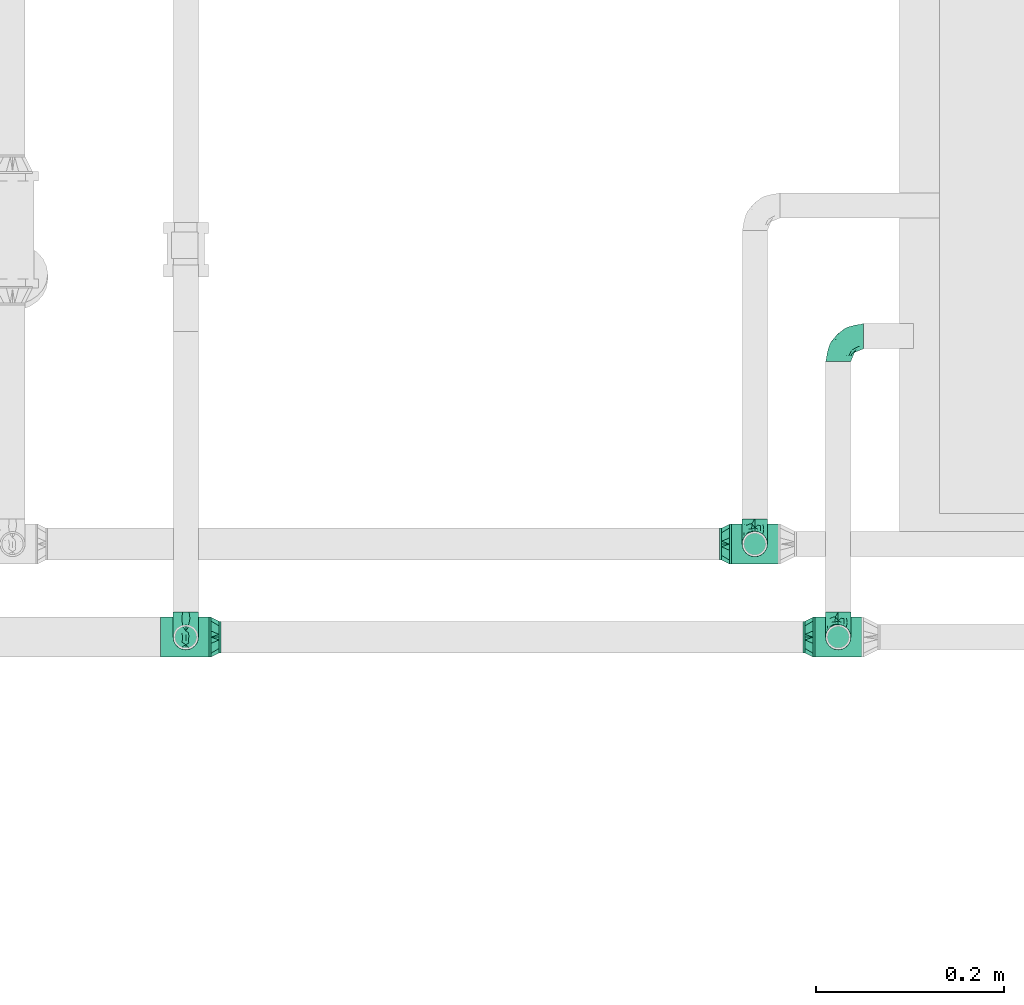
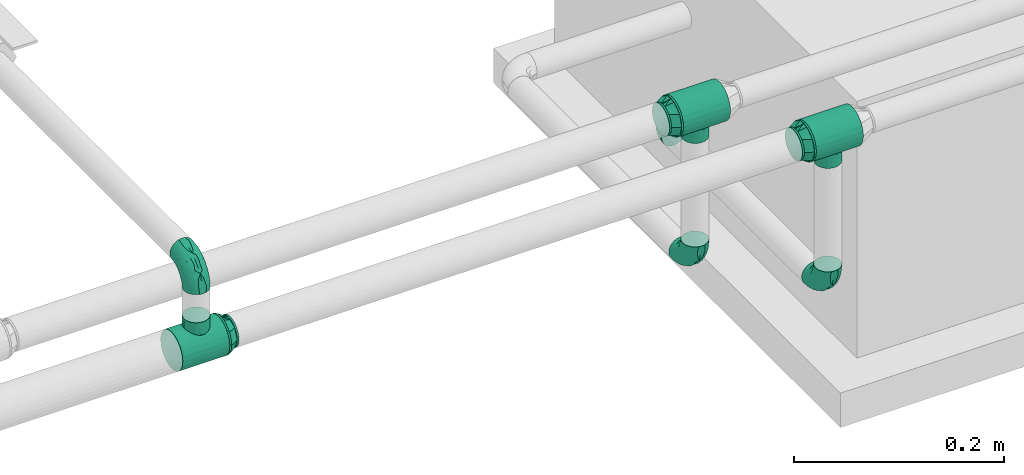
# One storey, part 19 of 35: 10 flow fittings.
"""IFC2X3 building model written with IfcOpenShell, lengths in millimetres."""

from ifc_helpers import new_model, entity, si_unit, converted_unit, derived_unit, direction, frame, origin_with_axes, place, context, subcontext, project, spatial, open_shell, surface_model, source, transform, mapped, type_object, element, save


model = new_model("IFC2X3")

# Units and contexts
model_context = context("Model", 3, precision=0.01, world=frame((0.0, 4.29681676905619e-09, 0.0)), true_north=direction((4.01073788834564e-13, 1.0)))
plan_context = context("Plan", 3, precision=0.01, world=frame((0.0, 4.29681676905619e-09, 0.0)), true_north=direction((4.01073788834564e-13, 1.0)))
body_context = subcontext(model_context, "Body", "Model", "MODEL_VIEW")
ifc_project = project(units=[converted_unit("PLANEANGLEUNIT", "DEGREE", entity("IfcPositiveLengthMeasure", 0.0174532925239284), si_unit("PLANEANGLEUNIT", "RADIAN"), dimensions=[0, 0, 0, 0, 0, 0, 0]), si_unit("AREAUNIT", "SQUARE_METRE"), si_unit("LENGTHUNIT", "METRE", prefix="MILLI"), si_unit("MASSUNIT", "GRAM", prefix="KILO"), si_unit("POWERUNIT", "WATT"), si_unit("PRESSUREUNIT", "PASCAL"), si_unit("FORCEUNIT", "NEWTON", prefix="KILO"), si_unit("ELECTRICVOLTAGEUNIT", "VOLT"), si_unit("ELECTRICCURRENTUNIT", "AMPERE"), si_unit("THERMODYNAMICTEMPERATUREUNIT", "DEGREE_CELSIUS"), si_unit("TIMEUNIT", "SECOND"), si_unit("VOLUMEUNIT", "CUBIC_METRE"), derived_unit("LINEARVELOCITYUNIT", [(si_unit("LENGTHUNIT", "METRE"), 1), (si_unit("TIMEUNIT", "SECOND"), -1)]), derived_unit("VOLUMETRICFLOWRATEUNIT", [(si_unit("VOLUMEUNIT", "CUBIC_METRE"), 1), (si_unit("TIMEUNIT", "SECOND"), -1)]), derived_unit("THERMALTRANSMITTANCEUNIT", [(si_unit("POWERUNIT", "WATT"), 1), (si_unit("THERMODYNAMICTEMPERATUREUNIT", "KELVIN"), -1), (si_unit("AREAUNIT", "SQUARE_METRE"), -1)]), derived_unit("SOUNDPRESSUREUNIT", [(si_unit("PRESSUREUNIT", "PASCAL"), 1)])], contexts=[model_context, plan_context])

# Site, building, storey
site_placement = place(None, frame((0.0, -4.29681676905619e-09, 0.0), z_axis=(0.0, 0.0, 1.0), x_axis=(1.0, 0.0, 0.0)))
site = spatial("IfcSite", under=ifc_project, at=site_placement, Name="ENGM", CompositionType="ELEMENT")
building_placement = place(site_placement, frame((0.0, 4.29681676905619e-09, 0.0), z_axis=(0.0, 0.0, 1.0), x_axis=(1.0, 0.0, 0.0)))
building = spatial("IfcBuilding", under=site, at=building_placement, Name="TH", CompositionType="ELEMENT")
storey_placement = place(building_placement, frame((0.0, 0.0, 210200.0), z_axis=(0.0, 0.0, 1.0), x_axis=(1.0, 0.0, 0.0)))
storey = spatial("IfcBuildingStorey", under=building, at=storey_placement, Name="Nivå F - 0,7 m", CompositionType="ELEMENT", Elevation=210200.0)

# Flow fittings
pipe_fitting_type_1 = type_object("IfcPipeFittingType", Name="magi_pipe_fe_elbow_short_001", PredefinedType="BEND")
shared_shape_1 = source(origin_with_axes(), body_context, "Body", "SurfaceModel", [
    surface_model("IfcShellBasedSurfaceModel", [(-26.8, 0.0, -13.4), (-26.8, -12.94341, -3.46818), (-26.8, 3.46818, -12.94341), (-26.8, 6.7, -11.60474), (-26.8, 9.47523, -9.47523), (-26.8, 11.60474, -6.7), (-26.8, 11.60474, 6.7), (-26.8, -9.47523, -9.47523), (-26.8, -6.7, -11.60474), (-26.8, -3.46818, -12.94341), (-26.8, -11.60474, -6.7), (-26.8, -13.4, 0.0), (-26.8, -12.94341, 3.46818), (-26.8, 12.94341, -3.46818), (-26.8, 12.94341, 3.46818), (-26.8, 3.46818, 12.94341), (-26.8, 6.7, 11.60474), (-26.8, 9.47523, 9.47523), (-26.8, -6.7, 11.60474), (-26.8, -11.60474, 6.7), (-26.8, -9.47523, 9.47523), (-26.8, -3.46818, 12.94341), (-26.8, 0.0, 13.4), (-26.8, 13.4, 0.0), (-3.46818, 26.8, -12.94341), (12.94341, 26.8, -3.46818), (0.0, 26.8, -13.4), (-9.47523, 26.8, -9.47523), (-6.7, 26.8, -11.60474), (-11.60474, 26.8, -6.7), (-11.60474, 26.8, 6.7), (6.7, 26.8, -11.60474), (9.47523, 26.8, -9.47523), (3.46818, 26.8, -12.94341), (11.60474, 26.8, -6.7), (12.94341, 26.8, 3.46818), (13.4, 26.8, 0.0), (-13.4, 26.8, 0.0), (-12.94341, 26.8, -3.46818), (-12.94341, 26.8, 3.46818), (-9.47523, 26.8, 9.47523), (-6.7, 26.8, 11.60474), (-3.46818, 26.8, 12.94341), (6.7, 26.8, 11.60474), (9.47523, 26.8, 9.47523), (11.60474, 26.8, 6.7), (3.46818, 26.8, 12.94341), (0.0, 26.8, 13.4), (-17.94383, -11.72186, 4.19396), (-19.61933, -10.40522, 7.51874), (-14.00394, -9.97131, 0.0), (-10.88146, -9.75217, 2.96415), (5.6402, 4.14256, 4.06277), (2.9355, 3.86758, 7.99817), (-0.16552, -0.70254, 6.90229), (-11.69279, -8.47867, 6.74741), (-3.60975, -5.23517, 4.12915), (-20.40197, -11.68565, 0.0), (6.07727, 10.7767, 9.16668), (7.71917, 17.5318, 9.98024), (3.23022, 10.34855, 11.14395), (-17.5318, -7.71917, 9.98024), (-19.6814, -5.06542, 12.05518), (-20.47091, -1.77513, 13.17083), (-18.76435, 2.05404, 13.37716), (-10.34855, -3.23022, 11.14395), (-13.34095, -0.12025, 12.98799), (-20.6562, 5.25542, 12.65822), (-21.01515, 11.15223, 8.78653), (-19.1981, 14.0055, 6.12639), (-23.45804, 12.58298, 5.55254), (-13.79572, 19.62699, 6.0655), (-4.65712, 13.17755, 13.37596), (-9.92557, 9.92557, 13.07441), (-7.97904, 5.85569, 13.33097), (-14.12498, 14.96497, 9.49183), (-23.18377, 8.11481, 10.91864), (-3.49778, 8.97497, 13.15743), (-6.65819, 2.45826, 12.5129), (-1.36893, 7.23965, 12.31444), (-22.3163, 13.71444, 3.37662), (-20.76788, 15.89859, 0.0), (-5.00198, 23.11411, 12.55149), (-1.83653, 20.04451, 13.36709), (5.06542, 19.6814, 12.05518), (-4.60225, -3.19632, 8.30444), (-2.39362, 2.39362, 10.95564), (1.77513, 20.47091, 13.17083), (10.40522, 19.61933, 7.51874), (8.47867, 11.69279, 6.74741), (11.72186, 17.94383, 4.19396), (-10.7767, -6.07727, 9.16668), (-14.71477, 20.20527, 3.11661), (-18.32912, 15.92283, 3.19527), (9.75217, 10.88146, 2.96415), (9.97131, 14.00394, 0.0), (11.68565, 20.40197, 0.0), (-17.32477, 17.32477, 0.0), (8.01422, 6.7, 0.0), (-11.0099, 17.80242, 10.25412), (-8.46783, 20.75346, 11.10693), (-11.06207, 21.36651, 8.74797), (-10.13559, 14.48567, 11.94159), (-5.79525, 18.15733, 12.76163), (-14.31139, 12.02432, 11.13575), (-6.7, -8.01422, 0.0), (-14.72492, 5.73985, 13.1602), (-13.14892, 3.28357, 13.39428), (-14.24576, 9.09225, 12.39421), (-7.80572, 13.90987, 12.83655), (0.12025, 13.34095, 12.98799), (-18.45241, 9.09615, 11.28418), (-1.02036, 0.84565, 9.15855), (-3.66591, -4.13183, 6.30134), (-3.02144, -4.33567, 0.0), (1.56761, -1.1228, 3.23127), (-15.89859, 20.76788, 0.0), (4.33567, 3.02144, 0.0), (0.65711, -0.65711, 0.0), (-21.21323, 1.69434, -13.35639), (-11.59215, 19.61477, -8.94181), (-19.9553, -12.05444, -4.41231), (-20.61911, 5.26132, -12.65979), (-18.29002, 15.89425, -3.37935), (-10.94714, -3.38176, -11.24231), (-11.6358, -0.16715, -12.74497), (-5.38395, -0.22423, -10.97991), (-19.45447, 8.78609, -11.20697), (-21.18665, 11.10723, -8.76769), (8.05635, 19.80434, -10.14754), (-16.16073, 12.27967, -10.10626), (-10.65974, -9.81032, -2.24682), (-4.63434, -6.26604, -3.21731), (-12.41035, 15.57424, -10.31822), (-9.54276, 16.38525, -11.6371), (-12.38435, 12.38435, -11.76567), (-1.18054, -2.52878, -5.66699), (1.17703, 2.36499, -8.51656), (4.94456, 3.94062, -5.27361), (-13.23013, 7.7548, -12.95755), (-18.92609, -10.30887, -7.4546), (-19.80434, -8.05635, -10.14754), (-5.46999, 19.49566, -12.70683), (12.05444, 19.9553, -4.41231), (-22.63124, -5.28269, -12.19553), (-11.57403, -7.91736, -7.4927), (-10.00514, -5.4662, -9.37392), (0.56412, 6.29454, -11.17498), (0.16715, 11.6358, -12.74497), (2.76952, 11.43973, -11.70622), (-22.71135, 13.83144, -2.294), (-13.13887, 21.26515, -5.84046), (-14.02683, 21.74629, -2.98452), (10.30887, 18.92609, -7.4546), (-4.73052, 4.73052, -12.6532), (-16.28385, 15.93209, -6.57302), (-1.69434, 21.21323, -13.35639), (-8.4106, 21.03687, -11.08508), (1.68957, 19.74249, -13.15499), (5.28269, 22.63124, -12.19553), (-19.74249, -1.68957, -13.15499), (-16.96978, -4.62448, -11.91765), (-3.16773, 14.76219, -13.39711), (-7.24575, 7.81916, -13.39239), (-7.92886, 12.7032, -13.00116), (-6.57993, -6.26304, -6.05124), (9.46363, 9.95483, -2.39006), (6.59847, 4.89531, -2.6225), (0.29079, -2.47661, -2.876), (-21.42347, 13.17132, -5.65321), (9.35918, 11.66841, -5.08525), (8.33374, 12.94014, -7.69724), (5.4662, 10.00514, -9.37392), (4.62448, 16.96978, -11.91765), (-3.89324, -2.60816, -8.35445), (5.97121, 7.49007, -7.29975), (-14.76219, 3.16773, -13.39711), (-15.36238, 22.06238, 0.0), (-11.66841, -9.35918, -5.08525), (3.63632, 1.19488, -3.35093), (-14.94382, 15.17624, -8.6945)], [open_shell([[[0, 1, 2]], [[3, 2, 4]], [[5, 2, 1]], [[4, 2, 5]], [[5, 1, 6]], [[7, 1, 8]], [[0, 9, 8]], [[10, 1, 7]], [[8, 1, 0]], [[11, 12, 1]], [[13, 5, 14]], [[5, 6, 14]], [[1, 15, 6]], [[15, 16, 17]], [[6, 15, 17]], [[1, 18, 15]], [[19, 20, 12]], [[18, 12, 20]], [[18, 21, 15]], [[18, 1, 12]], [[15, 21, 22]], [[14, 23, 13]], [[24, 25, 26]], [[27, 24, 28]], [[25, 24, 29]], [[29, 24, 27]], [[30, 25, 29]], [[31, 25, 32]], [[31, 33, 26]], [[32, 25, 34]], [[26, 25, 31]], [[25, 35, 36]], [[37, 29, 38]], [[39, 30, 29]], [[30, 40, 25]], [[40, 41, 42]], [[42, 25, 40]], [[43, 25, 42]], [[35, 44, 45]], [[44, 35, 43]], [[42, 46, 43]], [[35, 25, 43]], [[47, 46, 42]], [[39, 29, 37]], [[48, 49, 19]], [[48, 50, 51]], [[52, 53, 54]], [[55, 51, 56]], [[49, 20, 19]], [[57, 48, 12]], [[58, 59, 60]], [[61, 18, 20]], [[61, 62, 18]], [[22, 63, 64]], [[62, 65, 66]], [[59, 44, 43]], [[22, 21, 63]], [[67, 16, 15]], [[68, 69, 70]], [[30, 39, 71]], [[72, 73, 74]], [[69, 68, 75]], [[22, 64, 15]], [[16, 76, 17]], [[6, 17, 68]], [[77, 78, 79]], [[80, 81, 23]], [[42, 82, 83]], [[43, 84, 59]], [[85, 86, 65]], [[46, 47, 87]], [[88, 89, 90]], [[91, 65, 61]], [[47, 42, 83]], [[71, 92, 93]], [[90, 94, 95]], [[84, 43, 46]], [[88, 90, 45]], [[59, 84, 60]], [[35, 45, 90]], [[75, 71, 69]], [[18, 62, 21]], [[90, 96, 35]], [[97, 81, 93]], [[94, 98, 95]], [[92, 97, 93]], [[50, 48, 57]], [[70, 14, 6]], [[99, 100, 101]], [[40, 101, 100]], [[41, 40, 100]], [[102, 103, 100]], [[103, 72, 83]], [[82, 100, 103]], [[82, 42, 41]], [[99, 104, 102]], [[23, 14, 80]], [[67, 15, 64]], [[51, 50, 105]], [[48, 19, 12]], [[49, 55, 61]], [[45, 44, 88]], [[89, 52, 94]], [[106, 107, 74]], [[108, 67, 106]], [[40, 30, 101]], [[103, 102, 109]], [[103, 109, 72]], [[87, 83, 110]], [[76, 68, 17]], [[68, 111, 104]], [[65, 62, 61]], [[63, 62, 66]], [[91, 61, 55]], [[65, 86, 78]], [[87, 84, 46]], [[110, 79, 60]], [[110, 60, 84]], [[86, 112, 60]], [[55, 49, 48]], [[61, 20, 49]], [[44, 59, 88]], [[89, 88, 59]], [[106, 67, 64]], [[76, 67, 111]], [[53, 52, 89]], [[112, 86, 85]], [[56, 113, 55]], [[112, 54, 53]], [[58, 89, 59]], [[56, 51, 105]], [[114, 115, 56]], [[14, 70, 80]], [[69, 71, 93]], [[37, 116, 92]], [[92, 116, 97]], [[30, 71, 101]], [[75, 101, 71]], [[99, 102, 100]], [[108, 104, 111]], [[106, 74, 73]], [[110, 83, 72]], [[78, 74, 66]], [[72, 74, 77]], [[83, 87, 47]], [[84, 87, 110]], [[62, 63, 21]], [[64, 63, 66]], [[12, 11, 57]], [[96, 90, 95]], [[96, 36, 35]], [[115, 117, 52]], [[56, 105, 114]], [[55, 48, 51]], [[89, 94, 90]], [[52, 98, 94]], [[106, 64, 107]], [[108, 106, 73]], [[102, 108, 73]], [[67, 108, 111]], [[102, 104, 108]], [[68, 104, 75]], [[64, 66, 107]], [[66, 74, 107]], [[65, 78, 66]], [[79, 78, 86]], [[60, 79, 86]], [[77, 79, 110]], [[72, 77, 110]], [[78, 77, 74]], [[67, 76, 16]], [[68, 76, 111]], [[100, 82, 41]], [[83, 82, 103]], [[68, 70, 6]], [[80, 69, 93]], [[69, 80, 70]], [[80, 93, 81]], [[55, 85, 91]], [[85, 65, 91]], [[60, 53, 58]], [[53, 89, 58]], [[54, 112, 85]], [[60, 112, 53]], [[85, 113, 54]], [[113, 115, 54]], [[55, 113, 85]], [[115, 113, 56]], [[71, 39, 92]], [[115, 114, 118]], [[37, 92, 39]], [[101, 75, 99]], [[99, 75, 104]], [[102, 73, 109]], [[72, 109, 73]], [[54, 115, 52]], [[117, 115, 118]], [[117, 98, 52]], [[2, 119, 0]], [[29, 27, 120]], [[121, 57, 1]], [[3, 122, 2]], [[97, 123, 81]], [[124, 125, 126]], [[127, 4, 128]], [[32, 129, 31]], [[127, 128, 130]], [[131, 132, 105]], [[133, 134, 135]], [[127, 3, 4]], [[136, 137, 138]], [[139, 122, 127]], [[4, 5, 128]], [[10, 140, 121]], [[141, 140, 7]], [[24, 142, 28]], [[95, 143, 96]], [[144, 8, 9]], [[145, 141, 146]], [[25, 36, 96]], [[147, 148, 149]], [[140, 10, 7]], [[23, 81, 150]], [[130, 133, 135]], [[151, 152, 38]], [[153, 34, 143]], [[147, 154, 148]], [[38, 29, 151]], [[120, 155, 151]], [[32, 153, 129]], [[26, 156, 24]], [[24, 156, 142]], [[143, 34, 25]], [[27, 28, 157]], [[123, 152, 155]], [[158, 33, 159]], [[144, 160, 161]], [[122, 3, 127]], [[148, 162, 158]], [[157, 28, 142]], [[162, 163, 164]], [[159, 33, 31]], [[165, 136, 132]], [[34, 153, 32]], [[166, 98, 167]], [[160, 9, 0]], [[161, 160, 125]], [[95, 166, 143]], [[50, 131, 105]], [[121, 1, 10]], [[168, 114, 132]], [[150, 169, 13]], [[167, 98, 117]], [[33, 158, 26]], [[164, 142, 162]], [[133, 157, 134]], [[7, 8, 141]], [[165, 145, 146]], [[170, 171, 153]], [[129, 172, 173]], [[126, 137, 174]], [[175, 137, 172]], [[148, 158, 173]], [[156, 158, 162]], [[149, 172, 147]], [[148, 154, 163]], [[119, 160, 0]], [[176, 163, 125]], [[176, 125, 160]], [[125, 154, 126]], [[169, 128, 5]], [[127, 130, 135]], [[139, 127, 135]], [[119, 122, 176]], [[120, 151, 29]], [[152, 97, 177]], [[142, 164, 134]], [[120, 27, 157]], [[152, 37, 38]], [[81, 123, 150]], [[123, 155, 169]], [[152, 123, 97]], [[140, 178, 121]], [[121, 178, 131]], [[144, 141, 8]], [[146, 141, 161]], [[25, 96, 143]], [[170, 153, 143]], [[129, 153, 171]], [[159, 129, 173]], [[137, 147, 172]], [[126, 154, 147]], [[172, 171, 175]], [[174, 137, 136]], [[137, 126, 147]], [[126, 146, 124]], [[117, 118, 179]], [[179, 138, 167]], [[128, 169, 155]], [[5, 13, 169]], [[57, 121, 50]], [[57, 11, 1]], [[122, 119, 2]], [[160, 119, 176]], [[158, 156, 26]], [[142, 156, 162]], [[162, 148, 163]], [[139, 135, 164]], [[125, 163, 154]], [[139, 163, 176]], [[163, 139, 164]], [[122, 139, 176]], [[155, 180, 128]], [[180, 120, 133]], [[180, 133, 130]], [[157, 133, 120]], [[142, 134, 157]], [[164, 135, 134]], [[128, 180, 130]], [[120, 180, 155]], [[152, 151, 155]], [[37, 152, 177]], [[169, 150, 123]], [[23, 150, 13]], [[121, 131, 50]], [[178, 165, 132]], [[178, 132, 131]], [[168, 132, 136]], [[145, 165, 178]], [[174, 165, 146]], [[178, 140, 145]], [[141, 145, 140]], [[179, 136, 138]], [[170, 166, 167]], [[168, 179, 118]], [[170, 167, 138]], [[143, 166, 170]], [[95, 98, 166]], [[117, 179, 167]], [[136, 179, 168]], [[129, 159, 31]], [[158, 159, 173]], [[160, 144, 9]], [[141, 144, 161]], [[175, 170, 138]], [[129, 171, 172]], [[170, 175, 171]], [[137, 175, 138]], [[148, 173, 149]], [[172, 149, 173]], [[165, 174, 136]], [[126, 174, 146]], [[146, 161, 124]], [[125, 124, 161]], [[114, 168, 118]], [[114, 105, 132]]])]),
])
for number, where, z_axis, x_axis, name in (
    (1, (900826.07965, 481295.36097, 2800.0), (1.0, 0.0, 0.0), (0.0, 3.999999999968e-06, -0.999999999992), "magi_pipe_fe_elbow_short_001"),
    (2, (900914.78846, 481196.37011, 2800.0), (1.0, 0.0, 0.0), (0.0, 3.999999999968e-06, -0.999999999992), "magi_pipe_fe_elbow_short_001"),
    (3, (900914.78846, 481516.37011, 2800.0), (0.0, 0.0, 1.0), (-1.0, 0.0, 0.0), "magi_pipe_fe_elbow_short_001"),
    (4, (900221.2, 481196.37011, 3070.04999999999), (-1.0, 0.0, 0.0), (0.0, 0.0, 1.0), "magi_pipe_fe_elbow_short_001"),
):
    element("IfcFlowFitting", number, at=place(storey_placement, frame(where, z_axis=z_axis, x_axis=x_axis)), inside=storey, type_object=pipe_fitting_type_1, Name=name, context=body_context, shape_type="MappedRepresentation", body=[
        mapped(shared_shape_1, transform((0.0, 0.0, 0.0), scale=1.0)),
    ])
pipe_fitting_type_2 = type_object("IfcPipeFittingType", Name="magi_pipe_fe_tee_centric_90_NOR", PredefinedType="JUNCTION")
shared_shape_2 = source(origin_with_axes(), body_context, "Body", "SurfaceModel", [
    surface_model("IfcShellBasedSurfaceModel", [(26.8, -10.6, 18.35974), (26.8, -20.47763, 5.48696), (26.8, 10.6, 18.35974), (26.8, 0.0, 21.2), (-26.8, 0.0, -21.2), (-26.8, -5.48696, -20.47763), (-26.8, 5.48696, -20.47763), (-26.8, 10.6, -18.35974), (-26.8, 20.47763, -5.48696), (-26.8, 18.35974, -10.6), (-26.8, 14.99066, -14.99066), (-26.8, -14.99066, -14.99066), (-26.8, -18.35974, -10.6), (-26.8, -10.6, -18.35974), (-26.8, -20.47763, -5.48696), (-26.8, -21.2, 0.0), (-26.8, -18.35974, 10.6), (-26.8, 20.47763, 5.48696), (-26.8, 18.35974, 10.6), (-26.8, 10.6, 18.35974), (-26.8, 14.99066, 14.99066), (-26.8, 5.48696, 20.47763), (-26.8, 0.0, 21.2), (-26.8, -14.99066, 14.99066), (-26.8, -10.6, 18.35974), (-26.8, -20.47763, 5.48696), (-26.8, -5.48696, 20.47763), (-26.8, 21.2, 0.0), (26.8, 5.48696, -20.47763), (26.8, -5.48696, -20.47763), (26.8, 0.0, -21.2), (26.8, 14.99066, -14.99066), (26.8, 10.6, -18.35974), (26.8, 18.35974, -10.6), (26.8, 20.47763, -5.48696), (26.8, -21.2, 0.0), (26.8, -10.6, -18.35974), (26.8, -18.35974, -10.6), (26.8, -14.99066, -14.99066), (26.8, -20.47763, -5.48696), (26.8, 21.2, 0.0), (26.8, 20.47763, 5.48696), (26.8, 18.35974, 10.6), (26.8, 14.99066, 14.99066), (26.8, 5.48696, 20.47763), (26.8, -14.99066, 14.99066), (26.8, -18.35974, 10.6), (26.8, -5.48696, 20.47763), (26.8, -20.83881, 2.74348), (12.55421, -20.67578, 4.68529), (12.9771, -20.93789, 2.34264), (10.22302, -19.34917, 8.66313), (6.7557, -17.76287, 11.5724), (13.4, -21.2, 0.0), (2.38855, -16.60076, 13.1854), (26.8, -19.41868, 8.04348), (-10.22603, -19.35076, 8.65958), (-26.8, -19.41868, 8.04348), (-12.55467, -20.67607, 4.68405), (-26.8, -20.83881, 2.74348), (-12.97733, -20.93803, 2.34203), (-13.4, -21.2, 0.0), (-6.7569, -17.76332, 11.5717), (-2.39255, -16.60133, 13.18468), (6.7557, -17.76287, -11.5724), (-12.97733, -20.93803, -2.34203), (2.38855, -16.60076, -13.1854), (10.22302, -19.34917, -8.66313), (12.9771, -20.93789, -2.34264), (-26.8, -20.83881, -2.74348), (-12.55467, -20.67607, -4.68405), (12.55421, -20.67578, -4.68529), (26.8, -20.83881, -2.74348), (26.8, -19.41868, -8.04348), (-2.39255, -16.60133, -13.18468), (-6.7569, -17.76332, -11.5717), (-10.22603, -19.35076, -8.65958), (-26.8, -19.41868, -8.04348), (9.47523, -31.8, -9.47523), (0.0, -31.8, -13.4), (3.46818, -31.8, -12.94341), (6.7, -31.8, -11.60474), (11.60474, -31.8, -6.7), (12.94341, -31.8, -3.46818), (-12.94341, -31.8, 3.46818), (-12.94341, -31.8, -3.46818), (-3.46818, -31.8, -12.94341), (-9.47523, -31.8, -9.47523), (-6.7, -31.8, -11.60474), (-11.60474, -31.8, -6.7), (-13.4, -31.8, 0.0), (13.4, -31.8, 0.0), (12.94341, -31.8, 3.46818), (11.60474, -31.8, 6.7), (6.7, -31.8, 11.60474), (9.47523, -31.8, 9.47523), (3.46818, -31.8, 12.94341), (-9.47523, -31.8, 9.47523), (-11.60474, -31.8, 6.7), (-6.7, -31.8, 11.60474), (-3.46818, -31.8, 12.94341), (0.0, -31.8, 13.4), (-0.002, -16.60105, 13.18504), (4.57212, -17.18181, 12.3789), (4.57212, -17.18181, -12.3789), (-0.002, -16.60105, -13.18504)], [open_shell([[[0, 1, 2]], [[2, 3, 0]], [[4, 5, 6]], [[7, 6, 8]], [[8, 9, 10]], [[7, 8, 10]], [[8, 6, 5]], [[11, 12, 13]], [[5, 13, 12]], [[14, 15, 12]], [[5, 12, 16]], [[15, 16, 12]], [[8, 5, 16]], [[16, 17, 8]], [[18, 17, 19]], [[19, 17, 16]], [[20, 18, 19]], [[21, 19, 22]], [[23, 24, 16]], [[16, 15, 25]], [[26, 22, 24]], [[19, 16, 24]], [[19, 24, 22]], [[27, 8, 17]], [[28, 29, 30]], [[31, 28, 32]], [[33, 34, 28]], [[33, 28, 31]], [[35, 28, 34]], [[36, 37, 38]], [[37, 36, 29]], [[37, 35, 39]], [[35, 37, 29]], [[29, 28, 35]], [[34, 1, 35]], [[40, 41, 42]], [[40, 42, 2]], [[40, 2, 1]], [[2, 42, 43]], [[3, 2, 44]], [[1, 45, 46]], [[45, 1, 0]], [[0, 3, 47]], [[40, 1, 34]], [[48, 1, 49]], [[35, 48, 50]], [[1, 51, 49]], [[46, 45, 52]], [[35, 50, 53]], [[52, 51, 46]], [[54, 52, 45]], [[48, 49, 50]], [[45, 23, 54]], [[46, 51, 55]], [[56, 16, 57]], [[58, 59, 60]], [[61, 60, 15]], [[58, 56, 25]], [[62, 63, 23]], [[51, 1, 55]], [[62, 16, 56]], [[16, 62, 23]], [[56, 57, 25]], [[63, 54, 23]], [[15, 60, 59]], [[58, 25, 59]], [[45, 24, 23]], [[22, 47, 3]], [[26, 0, 47]], [[21, 3, 44]], [[42, 41, 17]], [[20, 2, 43]], [[18, 43, 42]], [[44, 2, 19]], [[27, 41, 40]], [[24, 0, 26]], [[26, 47, 22]], [[21, 22, 3]], [[44, 19, 21]], [[19, 2, 20]], [[18, 20, 43]], [[17, 18, 42]], [[41, 27, 17]], [[0, 24, 45]], [[9, 34, 33]], [[8, 40, 34]], [[10, 33, 31]], [[30, 29, 5]], [[6, 32, 28]], [[4, 28, 30]], [[31, 32, 7]], [[13, 29, 36]], [[27, 40, 8]], [[8, 34, 9]], [[10, 9, 33]], [[31, 7, 10]], [[7, 32, 6]], [[4, 6, 28]], [[5, 4, 30]], [[29, 13, 5]], [[36, 11, 13]], [[38, 37, 64]], [[15, 65, 61]], [[64, 66, 38]], [[37, 67, 64]], [[38, 66, 11]], [[53, 68, 35]], [[69, 70, 65]], [[71, 67, 39]], [[71, 72, 68]], [[67, 37, 73]], [[39, 67, 73]], [[74, 75, 11]], [[76, 14, 77]], [[12, 11, 75]], [[75, 76, 12]], [[74, 11, 66]], [[76, 70, 14]], [[71, 39, 72]], [[70, 69, 14]], [[65, 15, 69]], [[35, 68, 72]], [[76, 77, 12]], [[38, 11, 36]], [[78, 79, 80]], [[78, 80, 81]], [[78, 82, 83]], [[79, 78, 84]], [[84, 85, 79]], [[86, 87, 88]], [[86, 79, 87]], [[89, 87, 79]], [[79, 85, 89]], [[85, 84, 90]], [[84, 78, 83]], [[91, 92, 93]], [[93, 94, 83]], [[94, 84, 83]], [[94, 93, 95]], [[84, 94, 96]], [[84, 97, 98]], [[97, 84, 99]], [[84, 100, 99]], [[100, 84, 101]], [[84, 96, 101]], [[83, 91, 93]], [[84, 60, 90]], [[56, 98, 97]], [[84, 98, 58]], [[97, 99, 62]], [[84, 58, 60]], [[60, 61, 90]], [[58, 98, 56]], [[50, 91, 53]], [[62, 100, 63]], [[62, 56, 97]], [[101, 54, 102]], [[62, 99, 100]], [[54, 101, 96]], [[103, 94, 52]], [[51, 95, 93]], [[94, 95, 52]], [[49, 93, 92]], [[95, 51, 52]], [[54, 96, 103]], [[50, 49, 92]], [[91, 50, 92]], [[49, 51, 93]], [[94, 103, 96]], [[101, 63, 100]], [[102, 63, 101]], [[83, 68, 91]], [[67, 82, 78]], [[83, 82, 71]], [[78, 81, 64]], [[68, 53, 91]], [[71, 82, 67]], [[80, 66, 104]], [[64, 67, 78]], [[79, 74, 105]], [[65, 90, 61]], [[104, 81, 80]], [[65, 70, 85]], [[86, 88, 75]], [[86, 74, 79]], [[70, 89, 85]], [[104, 64, 81]], [[79, 66, 80]], [[83, 71, 68]], [[86, 75, 74]], [[75, 88, 87]], [[75, 87, 76]], [[76, 87, 89]], [[76, 89, 70]], [[90, 65, 85]], [[105, 66, 79]]])]),
])
for number, where, z_axis, x_axis, name in (
    (5, (900826.07965, 481295.36097, 2978.79999999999), (0.0, 1.0, 0.0), (-1.0, 0.0, 0.0), "magi_pipe_fe_tee_centric_90_NOR"),
    (6, (900914.78846, 481196.37011, 2978.79999999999), (0.0, 1.0, 0.0), (-1.0, 0.0, 0.0), "magi_pipe_fe_tee_centric_90_NOR"),
    (7, (900221.2, 481196.37011, 2978.79999999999), (0.0, -1.0, 0.0), (-1.0, 0.0, 0.0), "magi_pipe_fe_tee_centric_90_NOR"),
):
    element("IfcFlowFitting", number, at=place(storey_placement, frame(where, z_axis=z_axis, x_axis=x_axis)), inside=storey, type_object=pipe_fitting_type_2, Name=name, context=body_context, shape_type="MappedRepresentation", body=[
        mapped(shared_shape_2, transform((0.0, 0.0, 0.0), scale=1.0)),
    ])
pipe_fitting_type_3 = type_object("IfcPipeFittingType", Name="magi_pipe_fe_reducer_centric_short_NOR", PredefinedType="TRANSITION")
shared_shape_3 = source(origin_with_axes(), body_context, "Body", "SurfaceModel", [
    surface_model("IfcShellBasedSurfaceModel", [(-2.0, 5.48696, -20.47763), (-2.0, 0.0, -21.2), (-2.0, 10.6, -18.35974), (-2.0, -10.6, -18.35974), (-2.0, -5.48696, -20.47763), (0.0, 17.15116, 12.46105), (0.0, 6.55116, -20.1624), (0.0, -21.2, 0.0), (0.0, -6.55116, -20.1624), (10.6, -11.9501, -11.9501), (10.6, -8.45, -14.63583), (10.6, -4.37404, -16.32415), (10.6, 8.45, -14.63583), (10.6, 16.9, 0.0), (10.6, -14.63583, -8.45), (10.6, -16.32415, -4.37404), (10.6, -4.37404, 16.32415), (10.6, 4.37404, -16.32415), (10.6, 0.0, -16.9), (10.6, 14.63583, -8.45), (10.6, 16.32415, -4.37404), (10.6, 11.9501, -11.9501), (10.6, -16.32415, 4.37404), (10.6, -16.9, 0.0), (10.6, -11.9501, 11.9501), (10.6, -14.63583, 8.45), (10.6, -8.45, 14.63583), (10.6, 0.0, 16.9), (10.6, 16.32415, 4.37404), (10.6, 14.63583, 8.45), (10.6, 11.9501, 11.9501), (10.6, 8.45, 14.63583), (10.6, 4.37404, 16.32415), (8.6, 0.0, 16.9), (8.6, 14.63583, 8.45), (8.6, -4.37404, 16.32415), (8.6, -8.45, 14.63583), (8.6, -16.32415, 4.37404), (8.6, -14.63583, 8.45), (8.6, -11.9501, 11.9501), (8.6, 11.9501, 11.9501), (8.6, 8.45, 14.63583), (8.6, 4.37404, 16.32415), (8.6, 16.32415, 4.37404), (8.6, 16.9, 0.0), (8.6, 16.32415, -4.37404), (8.6, 8.45, -14.63583), (8.6, -11.9501, -11.9501), (8.6, -16.32415, -4.37404), (8.6, -14.63583, -8.45), (8.6, -4.37404, -16.32415), (8.6, -8.45, -14.63583), (8.6, 14.63583, -8.45), (8.6, 11.9501, -11.9501), (8.6, 4.37404, -16.32415), (8.6, 0.0, -16.9), (8.6, -16.9, 0.0), (-2.0, -10.6, 18.35974), (-2.0, -5.48696, 20.47763), (-2.0, 0.0, 21.2), (-2.0, -14.99066, 14.99066), (-2.0, -20.47763, 5.48696), (-2.0, -18.35974, 10.6), (-2.0, 14.99066, -14.99066), (-2.0, 21.2, 0.0), (-2.0, 10.6, 18.35974), (-2.0, 14.99066, 14.99066), (-2.0, 5.48696, 20.47763), (-2.0, 20.47763, 5.48696), (-2.0, 18.35974, 10.6), (-2.0, -20.47763, -5.48696), (-2.0, -18.35974, -10.6), (-2.0, -14.99066, -14.99066), (-2.0, 20.47763, -5.48696), (-2.0, 18.35974, -10.6), (-2.0, -21.2, 0.0), (0.0, -5.48696, -20.47763), (0.0, 0.0, -21.2), (0.0, -10.6, -18.35974), (0.0, -14.99066, -14.99066), (0.0, -20.47763, -5.48696), (0.0, 21.2, 0.0), (0.0, -18.35974, -10.6), (0.0, 14.99066, -14.99066), (0.0, 5.48696, -20.47763), (0.0, 10.6, -18.35974), (0.0, 20.47763, -5.48696), (0.0, 18.35974, -10.6), (0.0, -14.99066, 14.99066), (0.0, -18.35974, 10.6), (0.0, -20.47763, 5.48696), (0.0, 0.0, 21.2), (0.0, -5.48696, 20.47763), (0.0, -10.6, 18.35974), (0.0, 14.99066, 14.99066), (0.0, 20.47763, 5.48696), (0.0, 18.35974, 10.6), (0.0, 10.6, 18.35974), (0.0, 5.48696, 20.47763), (0.0, -17.15116, 12.46105), (0.0, 6.55116, 20.1624), (0.0, -6.55116, 20.1624), (0.0, 17.15116, -12.46105), (0.0, -17.15116, -12.46105), (8.6, 13.18758, -8.96258), (8.6, 2.98753, -15.66253), (0.0, 0.0, -20.1624), (0.0, 18.16337, -9.34579), (0.0, 19.17558, -6.23052), (8.6, 14.42505, -5.97505), (8.6, -5.97505, -14.42505), (8.6, -8.96258, -13.18758), (0.0, -11.85116, -16.31172), (8.6, -2.98753, -15.66253), (8.6, -13.18758, -8.96258), (8.6, -14.42505, -5.97505), (0.0, -19.17558, -6.23052), (8.6, -15.66253, -2.98753), (8.6, 15.66253, -2.98753), (0.0, 11.85116, -16.31172), (8.6, 8.96258, -13.18758), (8.6, 5.97505, -14.42505), (8.6, -13.18758, 8.96258), (8.6, -2.98753, 15.66253), (0.0, 0.0, 20.1624), (0.0, -18.16337, 9.34579), (0.0, -19.17558, 6.23052), (8.6, -14.42505, 5.97505), (8.6, 5.97505, 14.42505), (8.6, 8.96258, 13.18758), (0.0, 11.85116, 16.31172), (8.6, 2.98753, 15.66253), (8.6, 13.18758, 8.96258), (8.6, 14.42505, 5.97505), (0.0, 19.17558, 6.23052), (8.6, 15.66253, 2.98753), (8.6, -15.66253, 2.98753), (0.0, -11.85116, 16.31172), (8.6, -8.96258, 13.18758), (8.6, -5.97505, 14.42505)], [open_shell([[[0, 1, 2]], [[3, 1, 4]], [[5, 6, 7]], [[7, 6, 8]], [[9, 10, 11]], [[9, 11, 12]], [[12, 13, 9]], [[14, 9, 15]], [[9, 16, 15]], [[17, 12, 18]], [[12, 11, 18]], [[19, 20, 21]], [[12, 21, 20]], [[20, 13, 12]], [[22, 23, 15]], [[24, 25, 22]], [[16, 24, 22]], [[9, 13, 16]], [[26, 24, 16]], [[27, 16, 13]], [[28, 29, 27]], [[27, 13, 28]], [[30, 31, 29]], [[31, 27, 29]], [[32, 27, 31]], [[22, 15, 16]], [[33, 34, 35]], [[36, 35, 37]], [[37, 38, 39]], [[36, 37, 39]], [[37, 35, 34]], [[40, 34, 41]], [[33, 42, 41]], [[41, 34, 33]], [[37, 34, 43]], [[44, 45, 43]], [[46, 37, 43]], [[47, 48, 37]], [[49, 48, 47]], [[50, 51, 47]], [[47, 37, 46]], [[47, 46, 50]], [[52, 53, 45]], [[46, 45, 53]], [[54, 55, 46]], [[46, 43, 45]], [[46, 55, 50]], [[56, 37, 48]], [[44, 20, 45]], [[45, 19, 52]], [[46, 53, 12]], [[21, 53, 52]], [[54, 46, 17]], [[20, 19, 45]], [[44, 13, 20]], [[46, 12, 17]], [[12, 53, 21]], [[52, 19, 21]], [[54, 17, 18]], [[18, 55, 54]], [[55, 11, 50]], [[50, 10, 51]], [[49, 47, 14]], [[9, 47, 51]], [[48, 49, 15]], [[10, 9, 51]], [[50, 11, 10]], [[48, 15, 23]], [[15, 49, 14]], [[47, 9, 14]], [[48, 23, 56]], [[18, 11, 55]], [[56, 22, 37]], [[37, 25, 38]], [[36, 39, 26]], [[24, 39, 38]], [[35, 36, 16]], [[22, 25, 37]], [[56, 23, 22]], [[36, 26, 16]], [[26, 39, 24]], [[38, 25, 24]], [[35, 16, 27]], [[27, 33, 35]], [[33, 32, 42]], [[42, 31, 41]], [[34, 40, 29]], [[30, 40, 41]], [[43, 34, 28]], [[31, 30, 41]], [[42, 32, 31]], [[43, 28, 13]], [[28, 34, 29]], [[40, 30, 29]], [[43, 13, 44]], [[27, 32, 33]], [[57, 58, 59]], [[60, 57, 59]], [[61, 62, 60]], [[59, 61, 60]], [[63, 59, 64]], [[65, 66, 67]], [[66, 59, 67]], [[68, 64, 69]], [[59, 66, 69]], [[59, 69, 64]], [[63, 61, 59]], [[3, 70, 61]], [[71, 70, 72]], [[3, 61, 63]], [[72, 70, 3]], [[73, 74, 64]], [[64, 74, 63]], [[3, 63, 2]], [[3, 2, 1]], [[75, 61, 70]], [[76, 77, 78]], [[79, 78, 80]], [[81, 80, 78]], [[82, 79, 80]], [[78, 83, 81]], [[84, 85, 77]], [[85, 78, 77]], [[86, 81, 87]], [[83, 78, 85]], [[81, 83, 87]], [[80, 81, 7]], [[88, 89, 90]], [[91, 88, 90]], [[91, 92, 93]], [[88, 91, 93]], [[94, 91, 90]], [[95, 96, 81]], [[94, 81, 96]], [[97, 98, 94]], [[90, 81, 94]], [[94, 98, 91]], [[7, 81, 90]], [[64, 86, 73]], [[73, 87, 74]], [[2, 63, 85]], [[83, 63, 74]], [[0, 2, 84]], [[86, 87, 73]], [[64, 81, 86]], [[2, 85, 84]], [[85, 63, 83]], [[74, 87, 83]], [[0, 84, 77]], [[77, 1, 0]], [[1, 76, 4]], [[4, 78, 3]], [[71, 72, 82]], [[79, 72, 3]], [[70, 71, 80]], [[78, 79, 3]], [[4, 76, 78]], [[70, 80, 7]], [[80, 71, 82]], [[72, 79, 82]], [[70, 7, 75]], [[77, 76, 1]], [[75, 90, 61]], [[61, 89, 62]], [[57, 60, 93]], [[88, 60, 62]], [[58, 57, 92]], [[90, 89, 61]], [[75, 7, 90]], [[57, 93, 92]], [[93, 60, 88]], [[62, 89, 88]], [[58, 92, 91]], [[91, 59, 58]], [[59, 98, 67]], [[67, 97, 65]], [[69, 66, 96]], [[94, 66, 65]], [[68, 69, 95]], [[97, 94, 65]], [[67, 98, 97]], [[68, 95, 81]], [[95, 69, 96]], [[66, 94, 96]], [[68, 81, 64]], [[91, 98, 59]], [[39, 44, 40]], [[40, 33, 39]], [[39, 47, 44]], [[55, 44, 47]], [[47, 39, 56]], [[53, 44, 55]], [[5, 7, 99]], [[100, 5, 101]], [[99, 101, 5]], [[5, 81, 102]], [[102, 6, 5]], [[7, 8, 103]], [[104, 53, 102]], [[6, 105, 106]], [[107, 108, 109]], [[110, 111, 112]], [[47, 103, 112]], [[112, 8, 110]], [[55, 113, 106]], [[114, 115, 103]], [[106, 113, 8]], [[116, 117, 7]], [[44, 118, 81]], [[119, 102, 53]], [[120, 121, 119]], [[118, 108, 81]], [[113, 110, 8]], [[6, 121, 105]], [[116, 103, 115]], [[55, 106, 105]], [[103, 47, 114]], [[56, 7, 117]], [[108, 118, 109]], [[107, 104, 102]], [[107, 109, 104]], [[111, 47, 112]], [[6, 119, 121]], [[119, 53, 120]], [[116, 115, 117]], [[122, 39, 99]], [[101, 123, 124]], [[125, 126, 127]], [[128, 129, 130]], [[40, 5, 130]], [[130, 100, 128]], [[33, 131, 124]], [[132, 133, 5]], [[124, 131, 100]], [[134, 135, 81]], [[56, 136, 7]], [[137, 99, 39]], [[138, 139, 137]], [[136, 126, 7]], [[131, 128, 100]], [[101, 139, 123]], [[134, 5, 133]], [[33, 124, 123]], [[5, 40, 132]], [[44, 81, 135]], [[126, 136, 127]], [[125, 122, 99]], [[125, 127, 122]], [[129, 40, 130]], [[101, 137, 139]], [[137, 39, 138]], [[134, 133, 135]]])]),
])
for number, where, z_axis, x_axis, name in (
    (8, (900799.27965, 481295.36097, 2978.79999999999), (0.0, 0.0, 1.0), (-1.0, 0.0, 0.0), "magi_pipe_fe_reducer_centric_short_NOR"),
    (9, (900887.98846, 481196.37011, 2978.79999999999), (0.0, 0.0, 1.0), (-1.0, 0.0, 0.0), "magi_pipe_fe_reducer_centric_short_NOR"),
    (10, (900248.0, 481196.37011, 2978.79999999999), (0.0, 0.0, 1.0), (1.0, 0.0, 0.0), "magi_pipe_fe_reducer_centric_short_NOR"),
):
    element("IfcFlowFitting", number, at=place(storey_placement, frame(where, z_axis=z_axis, x_axis=x_axis)), inside=storey, type_object=pipe_fitting_type_3, Name=name, context=body_context, shape_type="MappedRepresentation", body=[
        mapped(shared_shape_3, transform((0.0, 0.0, 0.0), scale=1.0)),
    ])

save(model, "model.ifc")
